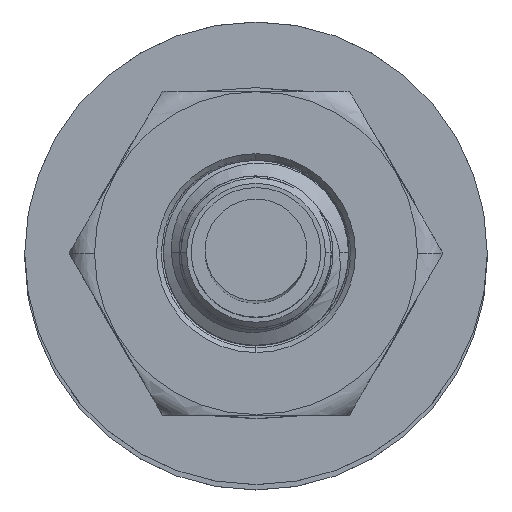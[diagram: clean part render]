
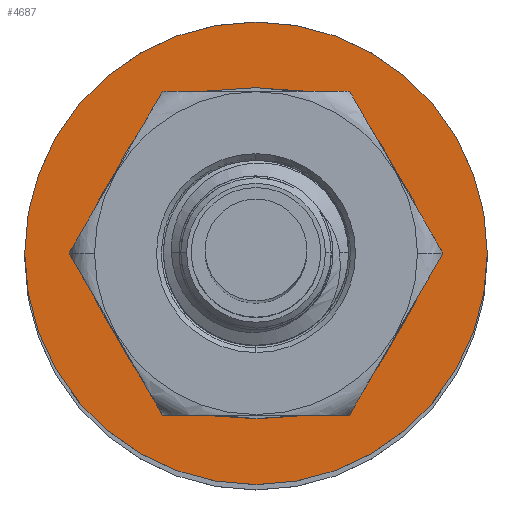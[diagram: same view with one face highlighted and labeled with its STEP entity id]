
A CAD part, top view. The second image highlights one B-rep face of the part: STEP entity #4687.
In plain terms, the highlighted planar face has unit normal (0, 0, 1).
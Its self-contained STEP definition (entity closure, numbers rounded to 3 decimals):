
#60 = DIRECTION ( 'NONE',  ( 0., 0., 1. ) ) ;
#300 = CARTESIAN_POINT ( 'NONE',  ( 2.25, 0., 0.5 ) ) ;
#730 = AXIS2_PLACEMENT_3D ( 'NONE', #2308, #3175, #11618 ) ;
#1021 = CARTESIAN_POINT ( 'NONE',  ( 5., 0., 0.5 ) ) ;
#1341 = DIRECTION ( 'NONE',  ( 0., 0., 1. ) ) ;
#1383 = PLANE ( 'NONE',  #2528 ) ;
#1436 = CARTESIAN_POINT ( 'NONE',  ( 0., 0., 0.5 ) ) ;
#1686 = AXIS2_PLACEMENT_3D ( 'NONE', #5833, #1341, #4924 ) ;
#2308 = CARTESIAN_POINT ( 'NONE',  ( 0., 0., 0.5 ) ) ;
#2528 = AXIS2_PLACEMENT_3D ( 'NONE', #1436, #4968, #8628 ) ;
#2589 = CARTESIAN_POINT ( 'NONE',  ( -5., 0., 0.5 ) ) ;
#2872 = ORIENTED_EDGE ( 'NONE', *, *, #6462, .F. ) ;
#3175 = DIRECTION ( 'NONE',  ( 0., 0., 1. ) ) ;
#3860 = CIRCLE ( 'NONE', #4052, 5. ) ;
#4035 = CIRCLE ( 'NONE', #8505, 2.25 ) ;
#4052 = AXIS2_PLACEMENT_3D ( 'NONE', #7008, #7581, #11346 ) ;
#4365 = ORIENTED_EDGE ( 'NONE', *, *, #7072, .F. ) ;
#4669 = CARTESIAN_POINT ( 'NONE',  ( 0., 0., 0.5 ) ) ;
#4687 = ADVANCED_FACE ( 'NONE', ( #8863, #6047 ), #1383, .T. ) ;
#4694 = EDGE_LOOP ( 'NONE', ( #2872, #4365 ) ) ;
#4924 = DIRECTION ( 'NONE',  ( 1., 0., 0. ) ) ;
#4968 = DIRECTION ( 'NONE',  ( 0., 0., 1. ) ) ;
#5257 = EDGE_CURVE ( 'NONE', #7582, #6706, #7902, .T. ) ;
#5494 = ORIENTED_EDGE ( 'NONE', *, *, #8923, .T. ) ;
#5671 = VERTEX_POINT ( 'NONE', #9051 ) ;
#5805 = ORIENTED_EDGE ( 'NONE', *, *, #5257, .T. ) ;
#5833 = CARTESIAN_POINT ( 'NONE',  ( 0., 0., 0.5 ) ) ;
#5935 = VERTEX_POINT ( 'NONE', #300 ) ;
#6047 = FACE_BOUND ( 'NONE', #4694, .T. ) ;
#6462 = EDGE_CURVE ( 'NONE', #5671, #5935, #11405, .T. ) ;
#6706 = VERTEX_POINT ( 'NONE', #1021 ) ;
#7008 = CARTESIAN_POINT ( 'NONE',  ( 0., 0., 0.5 ) ) ;
#7072 = EDGE_CURVE ( 'NONE', #5935, #5671, #4035, .T. ) ;
#7581 = DIRECTION ( 'NONE',  ( 0., 0., 1. ) ) ;
#7582 = VERTEX_POINT ( 'NONE', #2589 ) ;
#7902 = CIRCLE ( 'NONE', #730, 5. ) ;
#8086 = EDGE_LOOP ( 'NONE', ( #5805, #5494 ) ) ;
#8505 = AXIS2_PLACEMENT_3D ( 'NONE', #4669, #60, #11186 ) ;
#8628 = DIRECTION ( 'NONE',  ( 1., 0., 0. ) ) ;
#8863 = FACE_OUTER_BOUND ( 'NONE', #8086, .T. ) ;
#8923 = EDGE_CURVE ( 'NONE', #6706, #7582, #3860, .T. ) ;
#9051 = CARTESIAN_POINT ( 'NONE',  ( -2.25, 0., 0.5 ) ) ;
#11186 = DIRECTION ( 'NONE',  ( 1., 0., 0. ) ) ;
#11346 = DIRECTION ( 'NONE',  ( 1., 0., 0. ) ) ;
#11405 = CIRCLE ( 'NONE', #1686, 2.25 ) ;
#11618 = DIRECTION ( 'NONE',  ( 1., 0., 0. ) ) ;
